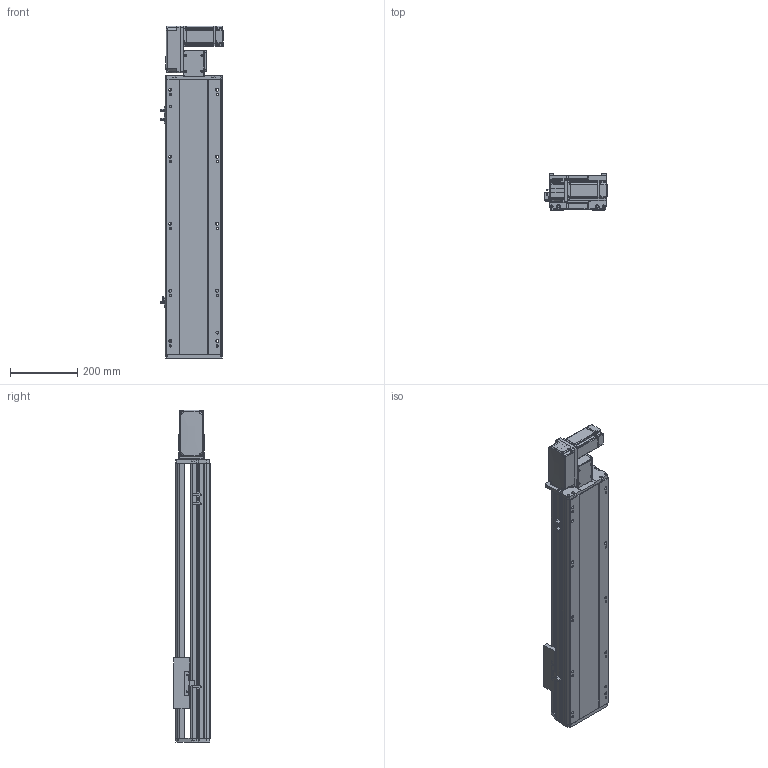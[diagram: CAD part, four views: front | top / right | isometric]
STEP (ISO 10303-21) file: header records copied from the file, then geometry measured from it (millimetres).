
FILE_DESCRIPTION (( 'STEP AP214' ), '1' );
FILE_NAME ('RTB17S-XX-550-L-M40-C4.STEP', '2025-12-11T03:54:12', ( '' ), ( '' ), 'SwSTEP 2.0', 'SolidWorks 2018', '' );
FILE_SCHEMA (( 'AUTOMOTIVE_DESIGN' ));
Length unit declared in the file: millimetre
Products named in the file (14): RMP17S-L-014-T20--皮带座^RTB17S-L-皮带座装配-400W_RTB17S-XX-XX-L-M40-C4（方程式）; RTB14-L-005P--轴承塑胶压盖^RTB17S-L-皮带座装配-400W_RTB17S-XX-XX-L-M40-C4（方程式）; RTB17-R-011底座^RTB17S-XX-XX-L-M40-C4（方程式）; RTB17S-L-皮带座装配-400W^RTB17S-XX-XX-L-M40-C4（方程式）; RTB17S-XX-550-L-M40-C4; RTB17S-L-004丝杆螺母连接座^RTB17S-XX-XX-L-M40-C4（方程式）; RTB14-L-018P^RTB17S-L-皮带座装配-400W_RTB17S-XX-XX-L-M40-C4（方程式）; RTB17S-L-007上盖^RTB17S-XX-XX-L-M40-C4（方程式）; RTB17S-L-001侧面板^RTB17S-XX-XX-L-M40-C4（方程式）; OMRON EE-SX672 传感器^RTB17S-XX-XX-L-M40-C4（方程式）; 400W伺服电机^RTB17S-XX-XX-L-M40-C4（方程式）; RTH13-BL-012感应片外置^RTB17S-XX-XX-L-M40-C4（方程式）; RTB14-L-008-M20--电机板^RTB17S-L-皮带座装配-400W_RTB17S-XX-XX-L-M40-C4（方程式）; RTB14-L-017P^RTB17S-L-皮带座装配-400W_RTB17S-XX-XX-L-M40-C4（方程式）
Assembly tree (16 placements, depth 3):
  RTB17S-XX-550-L-M40-C4
    RTB17-R-011底座^RTB17S-XX-XX-L-M40-C4（方程式）
    RTB17S-L-007上盖^RTB17S-XX-XX-L-M40-C4（方程式）
    OMRON EE-SX672 传感器^RTB17S-XX-XX-L-M40-C4（方程式）  x3
    RTB17S-L-001侧面板^RTB17S-XX-XX-L-M40-C4（方程式）
    400W伺服电机^RTB17S-XX-XX-L-M40-C4（方程式）
    RTB17S-L-004丝杆螺母连接座^RTB17S-XX-XX-L-M40-C4（方程式）
    RTH13-BL-012感应片外置^RTB17S-XX-XX-L-M40-C4（方程式）
    RTB17S-L-皮带座装配-400W^RTB17S-XX-XX-L-M40-C4（方程式）
      RMP17S-L-014-T20--皮带座^RTB17S-L-皮带座装配-400W_RTB17S-XX-XX-L-M40-C4（方程式）
      RTB14-L-005P--轴承塑胶压盖^RTB17S-L-皮带座装配-400W_RTB17S-XX-XX-L-M40-C4（方程式）
      RTB14-L-008-M20--电机板^RTB17S-L-皮带座装配-400W_RTB17S-XX-XX-L-M40-C4（方程式）
      RTB14-L-017P^RTB17S-L-皮带座装配-400W_RTB17S-XX-XX-L-M40-C4（方程式）  x2
      RTB14-L-018P^RTB17S-L-皮带座装配-400W_RTB17S-XX-XX-L-M40-C4（方程式）
Bounding box: 186 x 108 x 991 mm (x, y, z)
Volume: 8704659.7 mm3; surface area: 1097883.7 mm2
Topology: 15 solids, 15 shells, 2173 faces, 5979 edges, 3897 vertices
Faces by surface type: plane 1064, cylinder 661, bspline 301, cone 139, torus 8
Entity records: 61097 total; most frequent: CARTESIAN_POINT 16984, ORIENTED_EDGE 8802, DIRECTION 8216, EDGE_CURVE 4401, VERTEX_POINT 2885, AXIS2_PLACEMENT_3D 2815, LINE 2586, VECTOR 2586
